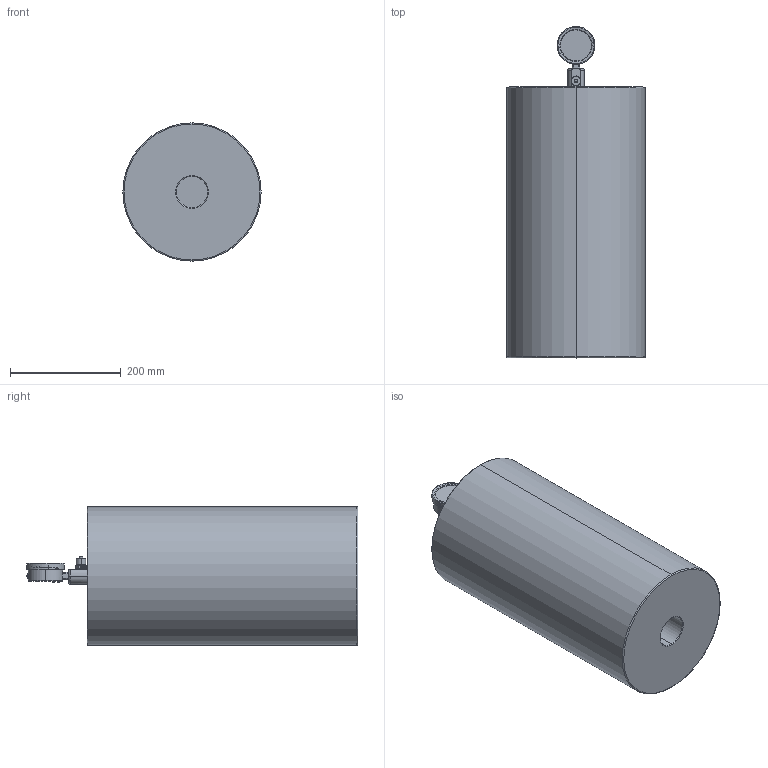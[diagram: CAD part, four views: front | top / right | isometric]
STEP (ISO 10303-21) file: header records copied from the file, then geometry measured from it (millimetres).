
FILE_DESCRIPTION (( 'STEP AP214' ), '1' );
FILE_NAME ('U100A01X1-PP (DGA).STEP', '2025-04-08T14:22:20', ( '' ), ( '' ), 'SwSTEP 2.0', 'SolidWorks 2024', '' );
FILE_SCHEMA (( 'AUTOMOTIVE_DESIGN' ));
Length unit declared in the file: millimetre
Products named in the file (1): U100A01X1-PP (DGA)
Bounding box: 250 x 600.4 x 250 mm (x, y, z)
Surface area: 592178.8 mm2 (no closed solid volume)
Topology: 0 solids, 18 shells, 795 faces, 2606 edges, 1764 vertices
Faces by surface type: plane 307, bspline 187, cylinder 181, cone 70, torus 40, sphere 10
Entity records: 60672 total; most frequent: CARTESIAN_POINT 31339, ORIENTED_EDGE 4416, DIRECTION 3523, EDGE_CURVE 2604, VERTEX_POINT 1764, VECTOR 1381, LINE 1381, AXIS2_PLACEMENT_3D 1071
